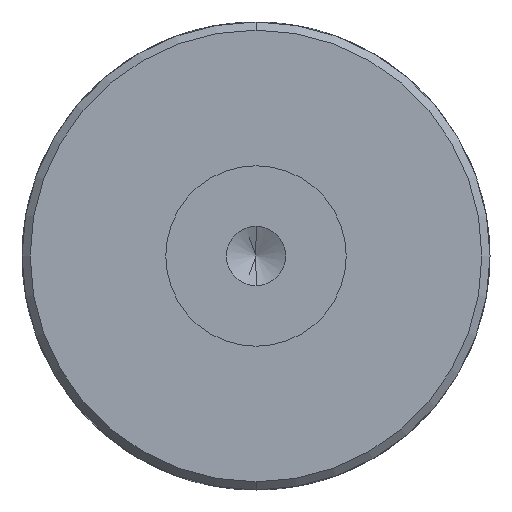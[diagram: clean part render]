
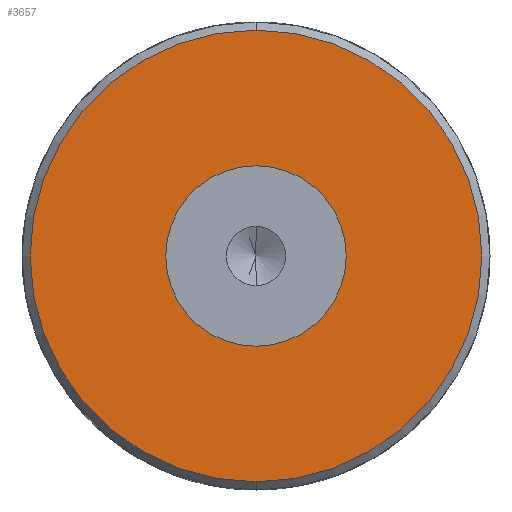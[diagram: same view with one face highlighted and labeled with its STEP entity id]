
A CAD part, front view. The second image highlights one B-rep face of the part: STEP entity #3657.
In plain terms, the highlighted planar face has unit normal (0, -1, 0).
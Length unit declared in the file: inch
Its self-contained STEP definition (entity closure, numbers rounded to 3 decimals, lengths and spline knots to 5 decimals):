
#901 = CARTESIAN_POINT ( 'NONE',  ( 0., 0., 1.665 ) ) ;
#1148 = CARTESIAN_POINT ( 'NONE',  ( 0., 0., -1.665 ) ) ;
#1155 = DIRECTION ( 'NONE',  ( 0., 0., 1. ) ) ;
#1156 = DIRECTION ( 'NONE',  ( 0., -1., 0. ) ) ;
#1157 = CARTESIAN_POINT ( 'NONE',  ( 0., 0., 0. ) ) ;
#1158 = AXIS2_PLACEMENT_3D ( 'NONE', #1157, #1156, #1155 ) ;
#1159 = CIRCLE ( 'NONE', #1158, 1.665 ) ;
#1345 = DIRECTION ( 'NONE',  ( 0., 0., -1. ) ) ;
#1346 = DIRECTION ( 'NONE',  ( 0., -1., 0. ) ) ;
#1347 = CARTESIAN_POINT ( 'NONE',  ( 0., 0., 0. ) ) ;
#1348 = AXIS2_PLACEMENT_3D ( 'NONE', #1347, #1346, #1345 ) ;
#1349 = CIRCLE ( 'NONE', #1348, 0.665 ) ;
#1362 = CARTESIAN_POINT ( 'NONE',  ( 0., 0., -0.665 ) ) ;
#1401 = CARTESIAN_POINT ( 'NONE',  ( 0., 0., 0.665 ) ) ;
#1695 = FACE_BOUND ( 'NONE', #3658, .T. ) ;
#1697 = PLANE ( 'NONE',  #1760 ) ;
#1726 = DIRECTION ( 'NONE',  ( 0., 0., 1. ) ) ;
#1727 = DIRECTION ( 'NONE',  ( 0., -1., 0. ) ) ;
#1728 = CARTESIAN_POINT ( 'NONE',  ( 0., 0., 0. ) ) ;
#1729 = AXIS2_PLACEMENT_3D ( 'NONE', #1728, #1727, #1726 ) ;
#1730 = CIRCLE ( 'NONE', #1729, 1.665 ) ;
#1731 = DIRECTION ( 'NONE',  ( 0., 0., -1. ) ) ;
#1732 = DIRECTION ( 'NONE',  ( 0., -1., 0. ) ) ;
#1733 = AXIS2_PLACEMENT_3D ( 'NONE', #1759, #1732, #1731 ) ;
#1734 = CIRCLE ( 'NONE', #1733, 0.665 ) ;
#1756 = DIRECTION ( 'NONE',  ( 0., 0., 1. ) ) ;
#1757 = DIRECTION ( 'NONE',  ( 0., 1., 0. ) ) ;
#1758 = CARTESIAN_POINT ( 'NONE',  ( 0., 0., 0. ) ) ;
#1759 = CARTESIAN_POINT ( 'NONE',  ( 0., 0., 0. ) ) ;
#1760 = AXIS2_PLACEMENT_3D ( 'NONE', #1758, #1757, #1756 ) ;
#1761 = FACE_OUTER_BOUND ( 'NONE', #3662, .T. ) ;
#3248 = VERTEX_POINT ( 'NONE', #901 ) ;
#3345 = VERTEX_POINT ( 'NONE', #1148 ) ;
#3371 = EDGE_CURVE ( 'NONE', #3345, #3248, #1159, .T. ) ;
#3429 = VERTEX_POINT ( 'NONE', #1362 ) ;
#3436 = EDGE_CURVE ( 'NONE', #3440, #3429, #1349, .T. ) ;
#3440 = VERTEX_POINT ( 'NONE', #1401 ) ;
#3657 = ADVANCED_FACE ( 'NONE', ( #1695, #1761 ), #1697, .F. ) ;
#3658 = EDGE_LOOP ( 'NONE', ( #3659, #3661 ) ) ;
#3659 = ORIENTED_EDGE ( 'NONE', *, *, #3660, .F. ) ;
#3660 = EDGE_CURVE ( 'NONE', #3429, #3440, #1734, .T. ) ;
#3661 = ORIENTED_EDGE ( 'NONE', *, *, #3436, .F. ) ;
#3662 = EDGE_LOOP ( 'NONE', ( #3663, #3665 ) ) ;
#3663 = ORIENTED_EDGE ( 'NONE', *, *, #3664, .T. ) ;
#3664 = EDGE_CURVE ( 'NONE', #3248, #3345, #1730, .T. ) ;
#3665 = ORIENTED_EDGE ( 'NONE', *, *, #3371, .T. ) ;
